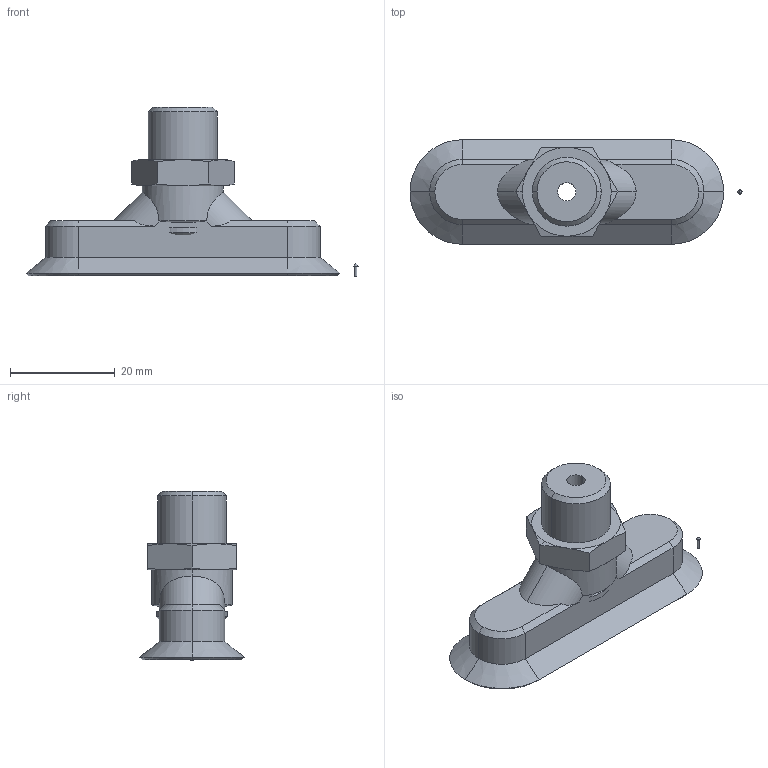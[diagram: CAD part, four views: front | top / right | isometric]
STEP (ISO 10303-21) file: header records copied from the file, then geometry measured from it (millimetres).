
FILE_DESCRIPTION(('STEP AP214'),'1');
FILE_NAME('KIT.08.39.L60.41.stp','2019-05-28T07:21:08',(' '),(' '),'Spatial InterOp 3D',' ',' ');
FILE_SCHEMA(('AUTOMOTIVE_DESIGN { 1 0 10303 214 1 1 1 1 }'));
Length unit declared in the file: millimetre
Products named in the file (5): KIT.08.39.L60.41; CA.08.09.041; CA.08.39.007
Assembly tree (4 placements, depth 3):
  KIT.08.39.L60.41
    CA.08.09.041
    (unnamed)
      CA.08.39.007
      CA.08.39.007
Bounding box: 63.51 x 20 x 32.35 mm (x, y, z)
Volume: 9688.6 mm3; surface area: 5931.7 mm2
Topology: 3 solids, 3 shells, 106 faces, 228 edges, 138 vertices
Faces by surface type: cone 39, plane 36, cylinder 31
Full cylindrical faces by diameter (mm): 0.4 x1, 12 x2, 13.6 x2
Entity records: 3803 total; most frequent: CARTESIAN_POINT 635, DIRECTION 490, ORIENTED_EDGE 434, EDGE_CURVE 217, AXIS2_PLACEMENT_3D 203, VERTEX_POINT 134, EDGE_LOOP 126, FACE_OUTER_BOUND 111
